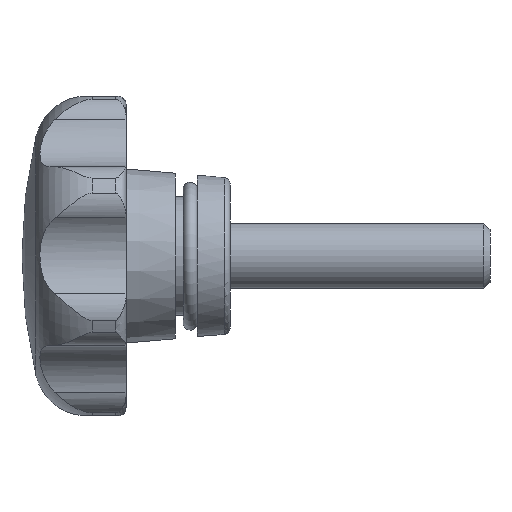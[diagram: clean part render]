
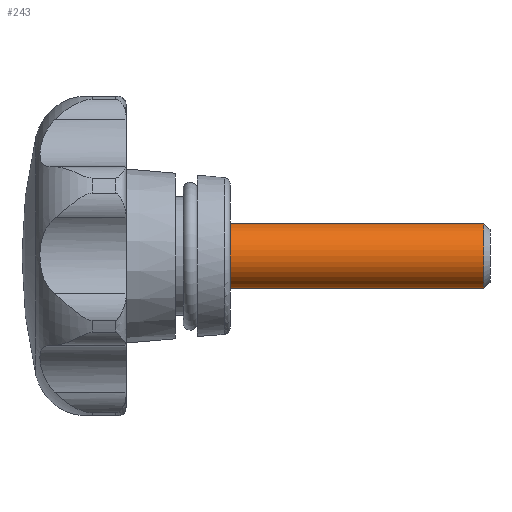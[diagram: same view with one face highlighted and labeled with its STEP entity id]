
A CAD part, left-side view. The second image highlights one B-rep face of the part: STEP entity #243.
In plain terms, the highlighted cylindrical face has radius 2.5 mm (diameter 5 mm), a full revolution.
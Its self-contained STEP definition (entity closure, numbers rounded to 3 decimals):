
#243 = ADVANCED_FACE( '', ( #515, #516 ), #517, .T. );
#515 = FACE_OUTER_BOUND( '', #911, .T. );
#516 = FACE_OUTER_BOUND( '', #912, .T. );
#517 = CYLINDRICAL_SURFACE( '', #913, 2.5 );
#911 = EDGE_LOOP( '', ( #1673 ) );
#912 = EDGE_LOOP( '', ( #1674 ) );
#913 = AXIS2_PLACEMENT_3D( '', #1675, #1676, #1677 );
#1673 = ORIENTED_EDGE( '', *, *, #2717, .F. );
#1674 = ORIENTED_EDGE( '', *, *, #2718, .T. );
#1675 = CARTESIAN_POINT( '', ( 0., -20., 0. ) );
#1676 = DIRECTION( '', ( 0., 1., 0. ) );
#1677 = DIRECTION( '', ( 0., 0., -1. ) );
#2717 = EDGE_CURVE( '', #3322, #3322, #3323, .T. );
#2718 = EDGE_CURVE( '', #3324, #3324, #3325, .T. );
#3322 = VERTEX_POINT( '', #4786 );
#3323 = CIRCLE( '', #4787, 2.5 );
#3324 = VERTEX_POINT( '', #4788 );
#3325 = CIRCLE( '', #4789, 2.5 );
#4786 = CARTESIAN_POINT( '', ( 0., -19.51, -2.5 ) );
#4787 = AXIS2_PLACEMENT_3D( '', #5728, #5729, #5730 );
#4788 = CARTESIAN_POINT( '', ( 0., 0., -2.5 ) );
#4789 = AXIS2_PLACEMENT_3D( '', #5731, #5732, #5733 );
#5728 = CARTESIAN_POINT( '', ( 0., -19.51, 0. ) );
#5729 = DIRECTION( '', ( 0., -1., 0. ) );
#5730 = DIRECTION( '', ( 0., 0., -1. ) );
#5731 = CARTESIAN_POINT( '', ( 0., 0., 0. ) );
#5732 = DIRECTION( '', ( 0., -1., 0. ) );
#5733 = DIRECTION( '', ( 0., 0., -1. ) );
